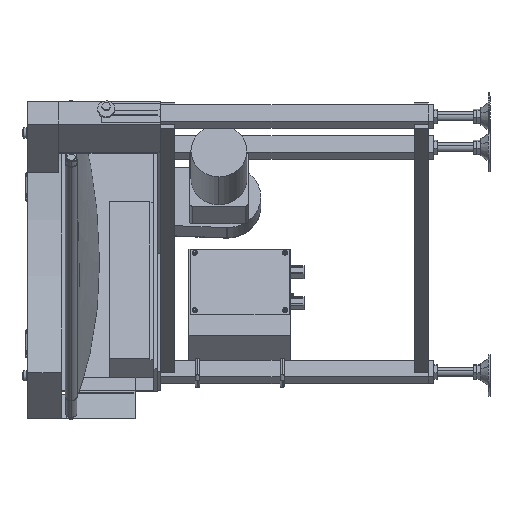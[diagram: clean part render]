
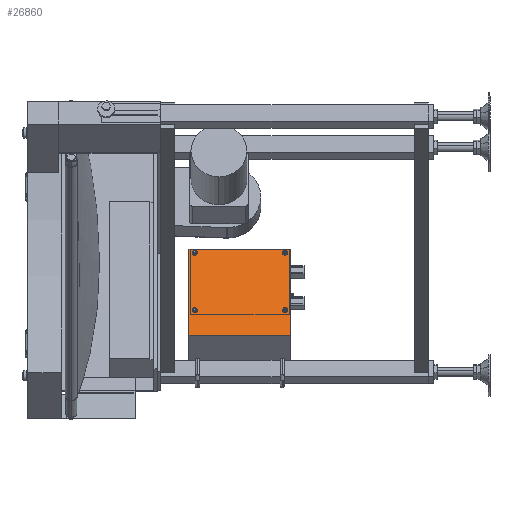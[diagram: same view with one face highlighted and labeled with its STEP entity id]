
A CAD part, left-side view. The second image highlights one B-rep face of the part: STEP entity #26860.
In plain terms, the highlighted planar face has unit normal (-0.924, 0, 0.383).
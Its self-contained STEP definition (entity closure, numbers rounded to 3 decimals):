
#94 = DIRECTION ( 'NONE',  ( -0.383, 0., -0.924 ) ) ;
#1308 = LINE ( 'NONE', #34101, #24677 ) ;
#1749 = CARTESIAN_POINT ( 'NONE',  ( 540.373, -227.5, -268.749 ) ) ;
#1937 = DIRECTION ( 'NONE',  ( 0.924, 0., -0.383 ) ) ;
#2211 = FACE_BOUND ( 'NONE', #37034, .T. ) ;
#3467 = ORIENTED_EDGE ( 'NONE', *, *, #9990, .T. ) ;
#3618 = FACE_BOUND ( 'NONE', #17819, .T. ) ;
#3852 = ORIENTED_EDGE ( 'NONE', *, *, #35907, .F. ) ;
#3986 = DIRECTION ( 'NONE',  ( 0.924, 0., -0.383 ) ) ;
#3996 = EDGE_CURVE ( 'NONE', #21320, #11977, #13303, .T. ) ;
#5085 = CARTESIAN_POINT ( 'NONE',  ( 540.373, -387.5, -268.749 ) ) ;
#5121 = AXIS2_PLACEMENT_3D ( 'NONE', #5085, #14151, #19883 ) ;
#5440 = AXIS2_PLACEMENT_3D ( 'NONE', #23793, #5577, #14762 ) ;
#5577 = DIRECTION ( 'NONE',  ( 0.924, 0., -0.383 ) ) ;
#6345 = CIRCLE ( 'NONE', #22567, 4.5 ) ;
#6503 = CARTESIAN_POINT ( 'NONE',  ( 480.1, -397.5, -414.26 ) ) ;
#6959 = FACE_BOUND ( 'NONE', #10925, .T. ) ;
#7147 = DIRECTION ( 'NONE',  ( 0., 1., 0. ) ) ;
#7315 = CARTESIAN_POINT ( 'NONE',  ( 496.555, -387.5, -374.533 ) ) ;
#7736 = VERTEX_POINT ( 'NONE', #29187 ) ;
#8156 = EDGE_CURVE ( 'NONE', #9654, #7736, #36403, .T. ) ;
#8853 = VERTEX_POINT ( 'NONE', #9149 ) ;
#9149 = CARTESIAN_POINT ( 'NONE',  ( 538.651, -227.5, -272.906 ) ) ;
#9654 = VERTEX_POINT ( 'NONE', #35168 ) ;
#9655 = LINE ( 'NONE', #33255, #34422 ) ;
#9990 = EDGE_CURVE ( 'NONE', #22125, #38891, #6345, .T. ) ;
#10553 = DIRECTION ( 'NONE',  ( -0.383, 0., -0.924 ) ) ;
#10925 = EDGE_LOOP ( 'NONE', ( #31292, #33796 ) ) ;
#11122 = DIRECTION ( 'NONE',  ( -0.924, 0., 0.383 ) ) ;
#11207 = AXIS2_PLACEMENT_3D ( 'NONE', #31899, #11122, #23338 ) ;
#11463 = ORIENTED_EDGE ( 'NONE', *, *, #14313, .T. ) ;
#11977 = VERTEX_POINT ( 'NONE', #7315 ) ;
#12701 = DIRECTION ( 'NONE',  ( -0.383, 0., -0.924 ) ) ;
#13303 = CIRCLE ( 'NONE', #20416, 4.5 ) ;
#14151 = DIRECTION ( 'NONE',  ( 0.924, 0., -0.383 ) ) ;
#14196 = CIRCLE ( 'NONE', #19607, 4.5 ) ;
#14225 = DIRECTION ( 'NONE',  ( -0.383, 0., -0.924 ) ) ;
#14313 = EDGE_CURVE ( 'NONE', #8853, #18424, #35526, .T. ) ;
#14762 = DIRECTION ( 'NONE',  ( -0.383, 0., -0.924 ) ) ;
#15695 = DIRECTION ( 'NONE',  ( 0.924, 0., -0.383 ) ) ;
#16733 = ORIENTED_EDGE ( 'NONE', *, *, #38628, .T. ) ;
#16845 = DIRECTION ( 'NONE',  ( -0.383, 0., -0.924 ) ) ;
#17310 = EDGE_CURVE ( 'NONE', #18424, #8853, #34902, .T. ) ;
#17569 = DIRECTION ( 'NONE',  ( 0.924, 0., -0.383 ) ) ;
#17648 = DIRECTION ( 'NONE',  ( 0.383, 0., 0.924 ) ) ;
#17819 = EDGE_LOOP ( 'NONE', ( #11463, #37259 ) ) ;
#18301 = VERTEX_POINT ( 'NONE', #27953 ) ;
#18358 = DIRECTION ( 'NONE',  ( -0.383, 0., -0.924 ) ) ;
#18424 = VERTEX_POINT ( 'NONE', #26442 ) ;
#18880 = DIRECTION ( 'NONE',  ( 0., 1., 0. ) ) ;
#19607 = AXIS2_PLACEMENT_3D ( 'NONE', #30690, #27726, #12701 ) ;
#19883 = DIRECTION ( 'NONE',  ( -0.383, 0., -0.924 ) ) ;
#20298 = AXIS2_PLACEMENT_3D ( 'NONE', #25819, #3986, #10553 ) ;
#20416 = AXIS2_PLACEMENT_3D ( 'NONE', #32479, #1937, #14225 ) ;
#20963 = VERTEX_POINT ( 'NONE', #6503 ) ;
#21012 = EDGE_LOOP ( 'NONE', ( #33435, #38106 ) ) ;
#21046 = CIRCLE ( 'NONE', #5121, 4.5 ) ;
#21320 = VERTEX_POINT ( 'NONE', #39480 ) ;
#21868 = ORIENTED_EDGE ( 'NONE', *, *, #38829, .T. ) ;
#22069 = CARTESIAN_POINT ( 'NONE',  ( 542.095, -387.5, -264.592 ) ) ;
#22125 = VERTEX_POINT ( 'NONE', #22069 ) ;
#22567 = AXIS2_PLACEMENT_3D ( 'NONE', #30619, #15695, #18358 ) ;
#22994 = DIRECTION ( 'NONE',  ( 0.383, 0., 0.924 ) ) ;
#23064 = DIRECTION ( 'NONE',  ( 0.924, 0., -0.383 ) ) ;
#23338 = DIRECTION ( 'NONE',  ( 0.383, 0., 0.924 ) ) ;
#23666 = EDGE_CURVE ( 'NONE', #34657, #18301, #34847, .T. ) ;
#23793 = CARTESIAN_POINT ( 'NONE',  ( 498.277, -227.5, -370.376 ) ) ;
#24673 = EDGE_CURVE ( 'NONE', #11977, #21320, #25666, .T. ) ;
#24677 = VECTOR ( 'NONE', #7147, 1000. ) ;
#24795 = VECTOR ( 'NONE', #18880, 1000. ) ;
#24867 = CARTESIAN_POINT ( 'NONE',  ( 495.407, -217.5, -377.305 ) ) ;
#24898 = EDGE_CURVE ( 'NONE', #20963, #38044, #1308, .T. ) ;
#25486 = ORIENTED_EDGE ( 'NONE', *, *, #23666, .T. ) ;
#25666 = CIRCLE ( 'NONE', #34910, 4.5 ) ;
#25819 = CARTESIAN_POINT ( 'NONE',  ( 540.373, -227.5, -268.749 ) ) ;
#26068 = EDGE_CURVE ( 'NONE', #7736, #9654, #14196, .T. ) ;
#26275 = PLANE ( 'NONE',  #11207 ) ;
#26442 = CARTESIAN_POINT ( 'NONE',  ( 542.095, -227.5, -264.592 ) ) ;
#26830 = CARTESIAN_POINT ( 'NONE',  ( 538.651, -387.5, -272.906 ) ) ;
#26860 = ADVANCED_FACE ( 'NONE', ( #31786, #6959, #2211, #27947, #3618 ), #26275, .T. ) ;
#27726 = DIRECTION ( 'NONE',  ( 0.924, 0., -0.383 ) ) ;
#27947 = FACE_BOUND ( 'NONE', #21012, .T. ) ;
#27953 = CARTESIAN_POINT ( 'NONE',  ( 543.243, -217.5, -261.82 ) ) ;
#28888 = VECTOR ( 'NONE', #22994, 1000. ) ;
#29187 = CARTESIAN_POINT ( 'NONE',  ( 496.555, -227.5, -374.533 ) ) ;
#30619 = CARTESIAN_POINT ( 'NONE',  ( 540.373, -387.5, -268.749 ) ) ;
#30690 = CARTESIAN_POINT ( 'NONE',  ( 498.277, -227.5, -370.376 ) ) ;
#30854 = LINE ( 'NONE', #24867, #28888 ) ;
#30873 = AXIS2_PLACEMENT_3D ( 'NONE', #1749, #23064, #16845 ) ;
#31018 = CARTESIAN_POINT ( 'NONE',  ( 480.1, -217.5, -414.26 ) ) ;
#31292 = ORIENTED_EDGE ( 'NONE', *, *, #24673, .T. ) ;
#31786 = FACE_OUTER_BOUND ( 'NONE', #35756, .T. ) ;
#31899 = CARTESIAN_POINT ( 'NONE',  ( 495.407, -397.5, -377.305 ) ) ;
#32285 = ORIENTED_EDGE ( 'NONE', *, *, #24898, .F. ) ;
#32479 = CARTESIAN_POINT ( 'NONE',  ( 498.277, -387.5, -370.376 ) ) ;
#33255 = CARTESIAN_POINT ( 'NONE',  ( 495.407, -397.5, -377.305 ) ) ;
#33395 = CARTESIAN_POINT ( 'NONE',  ( 543.243, -397.5, -261.82 ) ) ;
#33435 = ORIENTED_EDGE ( 'NONE', *, *, #26068, .T. ) ;
#33709 = CARTESIAN_POINT ( 'NONE',  ( 543.243, -421., -261.82 ) ) ;
#33796 = ORIENTED_EDGE ( 'NONE', *, *, #3996, .T. ) ;
#34101 = CARTESIAN_POINT ( 'NONE',  ( 480.1, -562.424, -414.26 ) ) ;
#34422 = VECTOR ( 'NONE', #17648, 1000. ) ;
#34657 = VERTEX_POINT ( 'NONE', #33395 ) ;
#34847 = LINE ( 'NONE', #33709, #24795 ) ;
#34902 = CIRCLE ( 'NONE', #20298, 4.5 ) ;
#34910 = AXIS2_PLACEMENT_3D ( 'NONE', #39174, #17569, #94 ) ;
#35168 = CARTESIAN_POINT ( 'NONE',  ( 500., -227.5, -366.218 ) ) ;
#35526 = CIRCLE ( 'NONE', #30873, 4.5 ) ;
#35756 = EDGE_LOOP ( 'NONE', ( #25486, #3852, #32285, #21868 ) ) ;
#35907 = EDGE_CURVE ( 'NONE', #38044, #18301, #30854, .T. ) ;
#36403 = CIRCLE ( 'NONE', #5440, 4.5 ) ;
#37034 = EDGE_LOOP ( 'NONE', ( #16733, #3467 ) ) ;
#37259 = ORIENTED_EDGE ( 'NONE', *, *, #17310, .T. ) ;
#38044 = VERTEX_POINT ( 'NONE', #31018 ) ;
#38106 = ORIENTED_EDGE ( 'NONE', *, *, #8156, .T. ) ;
#38628 = EDGE_CURVE ( 'NONE', #38891, #22125, #21046, .T. ) ;
#38829 = EDGE_CURVE ( 'NONE', #20963, #34657, #9655, .T. ) ;
#38891 = VERTEX_POINT ( 'NONE', #26830 ) ;
#39174 = CARTESIAN_POINT ( 'NONE',  ( 498.277, -387.5, -370.376 ) ) ;
#39480 = CARTESIAN_POINT ( 'NONE',  ( 500., -387.5, -366.218 ) ) ;
